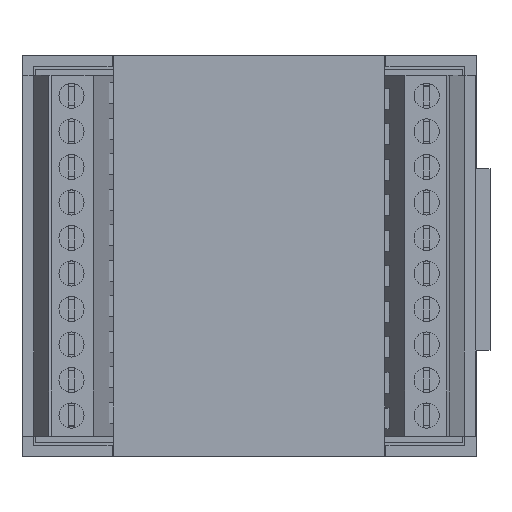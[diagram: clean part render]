
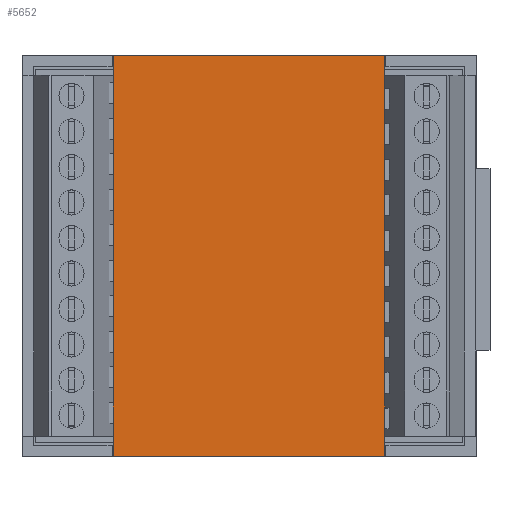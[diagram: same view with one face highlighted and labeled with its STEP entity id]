
A CAD part, top view. The second image highlights one B-rep face of the part: STEP entity #5652.
In plain terms, the highlighted planar face has unit normal (0, 0, 1).
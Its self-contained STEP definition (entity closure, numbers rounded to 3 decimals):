
#60 = CARTESIAN_POINT ( 'NONE',  ( 11.687, -17.88, 38.085 ) ) ;
#954 = VECTOR ( 'NONE', #8068, 1000. ) ;
#1380 = LINE ( 'NONE', #6235, #28038 ) ;
#3020 = VERTEX_POINT ( 'NONE', #8798 ) ;
#3580 = LINE ( 'NONE', #18797, #28516 ) ;
#4298 = ORIENTED_EDGE ( 'NONE', *, *, #15452, .F. ) ;
#4531 = EDGE_CURVE ( 'NONE', #5848, #27134, #7378, .T. ) ;
#4641 = PLANE ( 'NONE',  #5830 ) ;
#4961 = ORIENTED_EDGE ( 'NONE', *, *, #4531, .F. ) ;
#5652 = ADVANCED_FACE ( 'NONE', ( #31072 ), #4641, .T. ) ;
#5830 = AXIS2_PLACEMENT_3D ( 'NONE', #30886, #20735, #17770 ) ;
#5848 = VERTEX_POINT ( 'NONE', #7292 ) ;
#6235 = CARTESIAN_POINT ( 'NONE',  ( 11.487, -17.88, 38.085 ) ) ;
#7292 = CARTESIAN_POINT ( 'NONE',  ( 11.687, 10.764, 38.085 ) ) ;
#7378 = LINE ( 'NONE', #21017, #954 ) ;
#8068 = DIRECTION ( 'NONE',  ( 0., -1., 0. ) ) ;
#8633 = DIRECTION ( 'NONE',  ( 1., 0., 0. ) ) ;
#8798 = CARTESIAN_POINT ( 'NONE',  ( -7.733, 10.764, 38.085 ) ) ;
#9019 = ORIENTED_EDGE ( 'NONE', *, *, #25322, .F. ) ;
#11650 = DIRECTION ( 'NONE',  ( -1., 0., 0. ) ) ;
#11924 = CARTESIAN_POINT ( 'NONE',  ( -7.733, -17.88, 38.085 ) ) ;
#15452 = EDGE_CURVE ( 'NONE', #32405, #3020, #3580, .T. ) ;
#17770 = DIRECTION ( 'NONE',  ( 1., 0., 0. ) ) ;
#18797 = CARTESIAN_POINT ( 'NONE',  ( -7.733, -17.88, 38.085 ) ) ;
#20735 = DIRECTION ( 'NONE',  ( 0., 0., 1. ) ) ;
#20887 = VECTOR ( 'NONE', #8633, 1000. ) ;
#21017 = CARTESIAN_POINT ( 'NONE',  ( 11.687, 10.764, 38.085 ) ) ;
#25322 = EDGE_CURVE ( 'NONE', #27134, #32405, #1380, .T. ) ;
#25572 = EDGE_LOOP ( 'NONE', ( #33522, #4298, #9019, #4961 ) ) ;
#26460 = EDGE_CURVE ( 'NONE', #3020, #5848, #27350, .T. ) ;
#27134 = VERTEX_POINT ( 'NONE', #60 ) ;
#27350 = LINE ( 'NONE', #32601, #20887 ) ;
#28038 = VECTOR ( 'NONE', #11650, 1000. ) ;
#28516 = VECTOR ( 'NONE', #32448, 1000. ) ;
#30886 = CARTESIAN_POINT ( 'NONE',  ( 7.044, -3.777, 38.085 ) ) ;
#31072 = FACE_OUTER_BOUND ( 'NONE', #25572, .T. ) ;
#32405 = VERTEX_POINT ( 'NONE', #11924 ) ;
#32448 = DIRECTION ( 'NONE',  ( 0., 1., 0. ) ) ;
#32601 = CARTESIAN_POINT ( 'NONE',  ( -7.533, 10.764, 38.085 ) ) ;
#33522 = ORIENTED_EDGE ( 'NONE', *, *, #26460, .F. ) ;
